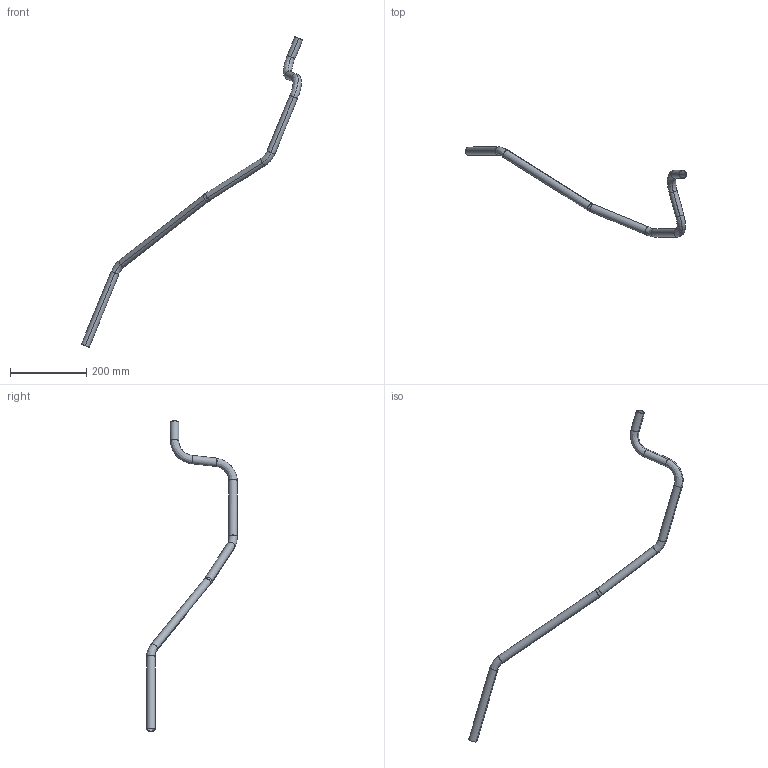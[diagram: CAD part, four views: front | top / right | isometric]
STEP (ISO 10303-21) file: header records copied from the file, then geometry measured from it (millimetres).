
FILE_DESCRIPTION(('CATIA V5 STEP Exchange','CAx-IF Rec.Pracs.--- Model Styling and Organization---1.2---2011-12-15'),'2;1');
FILE_NAME('c:\aplikace\smarteam\Temp\DO584751.step','2016-06-28T13:45:59+00:00',('none'),('none'),'CATIA Version 5 Release 21 SP 6 (IN-10)','CATIA V5 STEP AP214','none');
FILE_SCHEMA(('AUTOMOTIVE_DESIGN { 1 0 10303 214 1 1 1 1 }'));
Length unit declared in the file: millimetre
Products named in the file (1): DO584751, TRUBKA R2T3
Bounding box: 580.09 x 237.07 x 814.23 mm (x, y, z)
Volume: 115525.9 mm3; surface area: 154227.6 mm2
Topology: 1 solids, 1 shells, 46 faces, 92 edges, 48 vertices
Faces by surface type: cylinder 24, bspline 20, plane 2
Entity records: 2285 total; most frequent: CARTESIAN_POINT 1579, ORIENTED_EDGE 184, EDGE_CURVE 92, DIRECTION 80, EDGE_LOOP 48, VERTEX_POINT 48, ADVANCED_FACE 46, FACE_OUTER_BOUND 46
